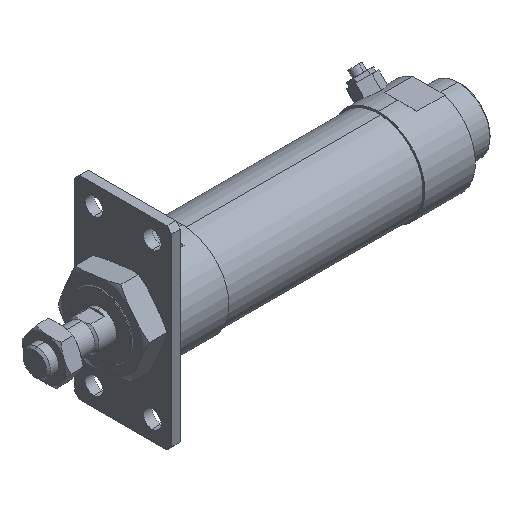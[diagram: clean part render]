
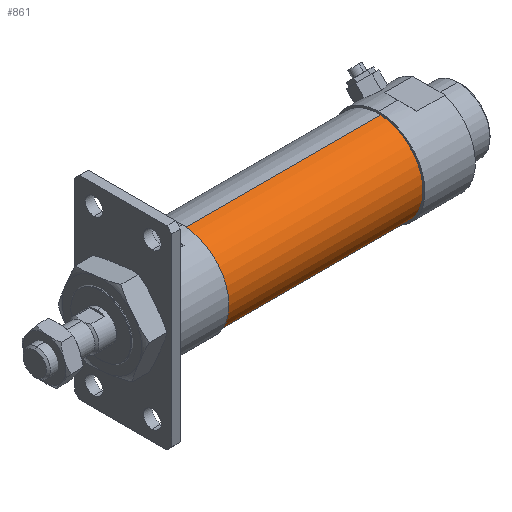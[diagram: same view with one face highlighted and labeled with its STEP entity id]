
A CAD part, isometric view. The second image highlights one B-rep face of the part: STEP entity #861.
In plain terms, the highlighted cylindrical face has radius 23 mm (diameter 46 mm), a partial arc.
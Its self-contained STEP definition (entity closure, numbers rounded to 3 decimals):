
#4 = VERTEX_POINT ( 'NONE', #3967 ) ;
#69 = LINE ( 'NONE', #155, #2117 ) ;
#155 = CARTESIAN_POINT ( 'NONE',  ( 50.5, 0., 23. ) ) ;
#278 = VERTEX_POINT ( 'NONE', #2453 ) ;
#379 = EDGE_CURVE ( 'NONE', #524, #4, #69, .T. ) ;
#524 = VERTEX_POINT ( 'NONE', #4866 ) ;
#861 = ADVANCED_FACE ( 'NONE', ( #5009 ), #3427, .T. ) ;
#1025 = CARTESIAN_POINT ( 'NONE',  ( 50.5, 0., 0. ) ) ;
#1409 = DIRECTION ( 'NONE',  ( 1., 0., 0. ) ) ;
#1575 = DIRECTION ( 'NONE',  ( -1., 0., 0. ) ) ;
#1719 = CIRCLE ( 'NONE', #1957, 23. ) ;
#1803 = LINE ( 'NONE', #2870, #3377 ) ;
#1847 = CARTESIAN_POINT ( 'NONE',  ( 50.5, 0., 0. ) ) ;
#1957 = AXIS2_PLACEMENT_3D ( 'NONE', #1847, #1409, #2834 ) ;
#2117 = VECTOR ( 'NONE', #1575, 1000. ) ;
#2319 = ORIENTED_EDGE ( 'NONE', *, *, #3615, .F. ) ;
#2365 = DIRECTION ( 'NONE',  ( -1., 0., 0. ) ) ;
#2453 = CARTESIAN_POINT ( 'NONE',  ( 50.5, 0., -23. ) ) ;
#2834 = DIRECTION ( 'NONE',  ( 0., 0., -1. ) ) ;
#2870 = CARTESIAN_POINT ( 'NONE',  ( 50.5, 0., -23. ) ) ;
#3029 = CARTESIAN_POINT ( 'NONE',  ( -50.5, 0., -23. ) ) ;
#3086 = DIRECTION ( 'NONE',  ( 0., 0., 1. ) ) ;
#3262 = AXIS2_PLACEMENT_3D ( 'NONE', #4696, #5304, #4608 ) ;
#3377 = VECTOR ( 'NONE', #5152, 1000. ) ;
#3400 = ORIENTED_EDGE ( 'NONE', *, *, #379, .T. ) ;
#3427 = CYLINDRICAL_SURFACE ( 'NONE', #4618, 23. ) ;
#3615 = EDGE_CURVE ( 'NONE', #278, #4331, #1803, .T. ) ;
#3766 = EDGE_CURVE ( 'NONE', #524, #278, #1719, .T. ) ;
#3958 = ORIENTED_EDGE ( 'NONE', *, *, #3766, .F. ) ;
#3967 = CARTESIAN_POINT ( 'NONE',  ( -50.5, 0., 23. ) ) ;
#4233 = CIRCLE ( 'NONE', #3262, 23. ) ;
#4234 = EDGE_LOOP ( 'NONE', ( #2319, #3958, #3400, #5145 ) ) ;
#4279 = EDGE_CURVE ( 'NONE', #4, #4331, #4233, .T. ) ;
#4331 = VERTEX_POINT ( 'NONE', #3029 ) ;
#4608 = DIRECTION ( 'NONE',  ( 0., 0., -1. ) ) ;
#4618 = AXIS2_PLACEMENT_3D ( 'NONE', #1025, #2365, #3086 ) ;
#4696 = CARTESIAN_POINT ( 'NONE',  ( -50.5, 0., 0. ) ) ;
#4866 = CARTESIAN_POINT ( 'NONE',  ( 50.5, 0., 23. ) ) ;
#5009 = FACE_OUTER_BOUND ( 'NONE', #4234, .T. ) ;
#5145 = ORIENTED_EDGE ( 'NONE', *, *, #4279, .T. ) ;
#5152 = DIRECTION ( 'NONE',  ( -1., 0., 0. ) ) ;
#5304 = DIRECTION ( 'NONE',  ( 1., 0., 0. ) ) ;
